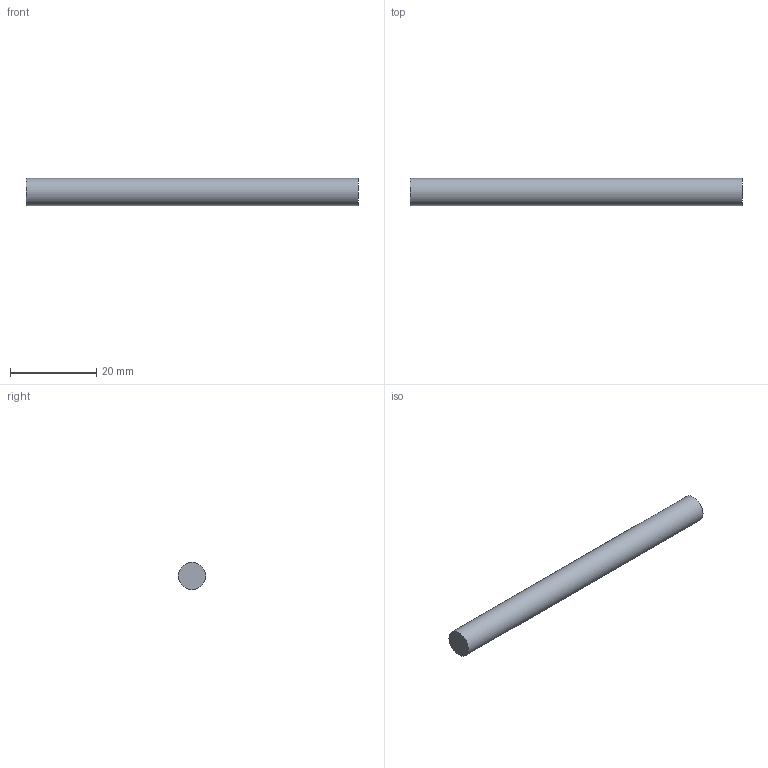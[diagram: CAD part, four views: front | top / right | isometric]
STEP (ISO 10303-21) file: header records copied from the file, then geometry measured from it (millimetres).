
FILE_DESCRIPTION(('Open CASCADE Model'),'2;1');
FILE_NAME('Open CASCADE Shape Model','2026-10-15T19:48:39',('Author'),( 'Open CASCADE'),'Open CASCADE STEP processor 7.9','Open CASCADE 7.9' ,'Unknown');
FILE_SCHEMA(('AUTOMOTIVE_DESIGN { 1 0 10303 214 1 1 1 1 }'));
Length unit declared in the file: millimetre
Products named in the file (1): Open CASCADE STEP translator 7.9 2
Bounding box: 77 x 6.35 x 6.35 mm (x, y, z)
Volume: 2438.5 mm3; surface area: 1599.4 mm2
Topology: 1 solids, 1 shells, 3 faces, 3 edges, 2 vertices
Faces by surface type: plane 2, cylinder 1
Full cylindrical faces by diameter (mm): 6.35 x1
Entity records: 108 total; most frequent: DIRECTION 19, CARTESIAN_POINT 15, AXIS2_PLACEMENT_3D 6, ORIENTED_EDGE 6, PCURVE 6, DEFINITIONAL_REPRESENTATION 6, LINE 5, VECTOR 5
